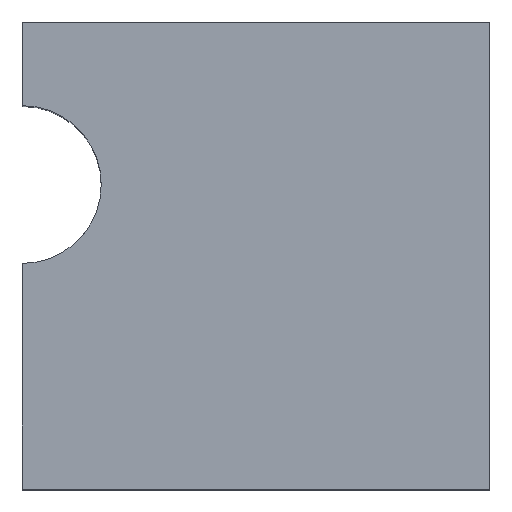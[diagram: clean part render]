
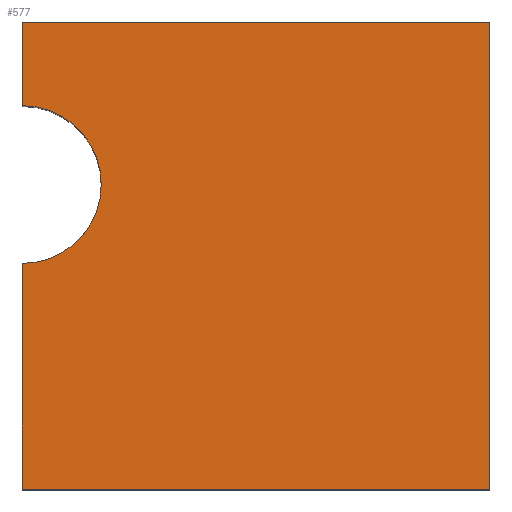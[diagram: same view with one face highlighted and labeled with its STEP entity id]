
A CAD part, top view. The second image highlights one B-rep face of the part: STEP entity #577.
In plain terms, the highlighted planar face has unit normal (0, 0, 1).
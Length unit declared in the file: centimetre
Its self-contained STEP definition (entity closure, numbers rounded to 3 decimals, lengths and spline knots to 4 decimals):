
#3 = DIRECTION ( 'NONE',  ( 1., 0., 0. ) ) ;
#14 = CARTESIAN_POINT ( 'NONE',  ( 0., 1000., 1000. ) ) ;
#25 = VERTEX_POINT ( 'NONE', #300 ) ;
#63 = DIRECTION ( 'NONE',  ( 0., 0., -1. ) ) ;
#67 = AXIS2_PLACEMENT_3D ( 'NONE', #258, #63, #161 ) ;
#76 = AXIS2_PLACEMENT_3D ( 'NONE', #602, #361, #564 ) ;
#86 = VECTOR ( 'NONE', #520, 100. ) ;
#89 = EDGE_CURVE ( 'NONE', #25, #599, #623, .T. ) ;
#115 = CARTESIAN_POINT ( 'NONE',  ( 0., 0., 1000. ) ) ;
#128 = DIRECTION ( 'NONE',  ( 0., -1., 0. ) ) ;
#130 = VECTOR ( 'NONE', #3, 100. ) ;
#131 = EDGE_CURVE ( 'NONE', #461, #214, #596, .T. ) ;
#154 = LINE ( 'NONE', #341, #163 ) ;
#156 = ORIENTED_EDGE ( 'NONE', *, *, #204, .T. ) ;
#159 = CARTESIAN_POINT ( 'NONE',  ( 0., 0., 1000. ) ) ;
#161 = DIRECTION ( 'NONE',  ( -1., 0., 0. ) ) ;
#163 = VECTOR ( 'NONE', #631, 100. ) ;
#173 = EDGE_CURVE ( 'NONE', #612, #25, #370, .T. ) ;
#204 = EDGE_CURVE ( 'NONE', #599, #461, #419, .T. ) ;
#208 = CARTESIAN_POINT ( 'NONE',  ( 1000., 1000., 1000. ) ) ;
#214 = VERTEX_POINT ( 'NONE', #527 ) ;
#233 = EDGE_LOOP ( 'NONE', ( #236, #156, #324, #594, #613, #549 ) ) ;
#236 = ORIENTED_EDGE ( 'NONE', *, *, #89, .T. ) ;
#258 = CARTESIAN_POINT ( 'NONE',  ( 0., 652.1135, 1000. ) ) ;
#265 = CARTESIAN_POINT ( 'NONE',  ( 0., 483.3032, 1000. ) ) ;
#296 = EDGE_CURVE ( 'NONE', #618, #612, #154, .T. ) ;
#300 = CARTESIAN_POINT ( 'NONE',  ( 0., 820.9239, 1000. ) ) ;
#324 = ORIENTED_EDGE ( 'NONE', *, *, #131, .T. ) ;
#326 = CARTESIAN_POINT ( 'NONE',  ( 0., 1000., 1000. ) ) ;
#341 = CARTESIAN_POINT ( 'NONE',  ( 0., 1000., 1000. ) ) ;
#346 = DIRECTION ( 'NONE',  ( 0., 1., 0. ) ) ;
#349 = EDGE_CURVE ( 'NONE', #214, #618, #507, .T. ) ;
#361 = DIRECTION ( 'NONE',  ( 0., 0., 1. ) ) ;
#366 = VECTOR ( 'NONE', #346, 100. ) ;
#370 = LINE ( 'NONE', #469, #510 ) ;
#404 = CARTESIAN_POINT ( 'NONE',  ( 1000., 1000., 1000. ) ) ;
#419 = LINE ( 'NONE', #326, #86 ) ;
#461 = VERTEX_POINT ( 'NONE', #159 ) ;
#469 = CARTESIAN_POINT ( 'NONE',  ( 0., 1000., 1000. ) ) ;
#507 = LINE ( 'NONE', #404, #366 ) ;
#510 = VECTOR ( 'NONE', #128, 100. ) ;
#520 = DIRECTION ( 'NONE',  ( 0., -1., 0. ) ) ;
#527 = CARTESIAN_POINT ( 'NONE',  ( 1000., 0., 1000. ) ) ;
#549 = ORIENTED_EDGE ( 'NONE', *, *, #173, .T. ) ;
#564 = DIRECTION ( 'NONE',  ( 1., 0., 0. ) ) ;
#577 = ADVANCED_FACE ( 'NONE', ( #609 ), #605, .T. ) ;
#594 = ORIENTED_EDGE ( 'NONE', *, *, #349, .T. ) ;
#596 = LINE ( 'NONE', #115, #130 ) ;
#599 = VERTEX_POINT ( 'NONE', #265 ) ;
#602 = CARTESIAN_POINT ( 'NONE',  ( 0., 0., 1000. ) ) ;
#605 = PLANE ( 'NONE',  #76 ) ;
#609 = FACE_OUTER_BOUND ( 'NONE', #233, .T. ) ;
#612 = VERTEX_POINT ( 'NONE', #14 ) ;
#613 = ORIENTED_EDGE ( 'NONE', *, *, #296, .T. ) ;
#618 = VERTEX_POINT ( 'NONE', #208 ) ;
#623 = CIRCLE ( 'NONE', #67, 168.8104 ) ;
#631 = DIRECTION ( 'NONE',  ( -1., 0., 0. ) ) ;
